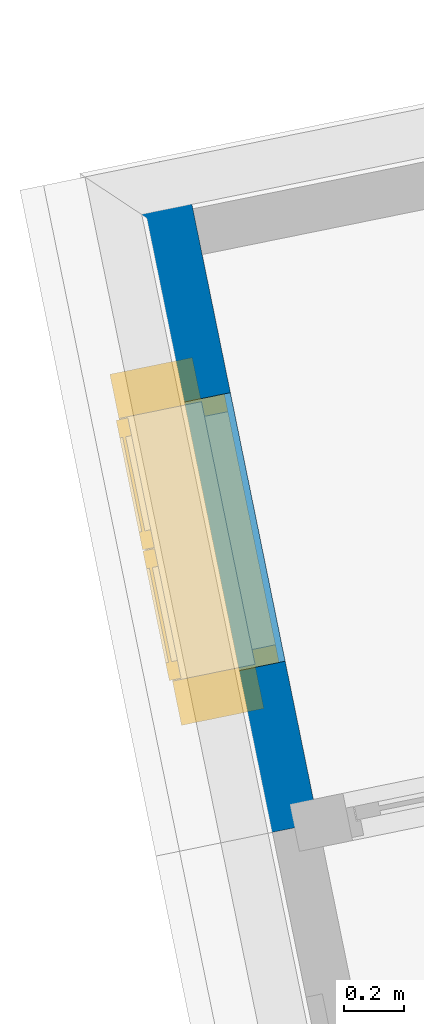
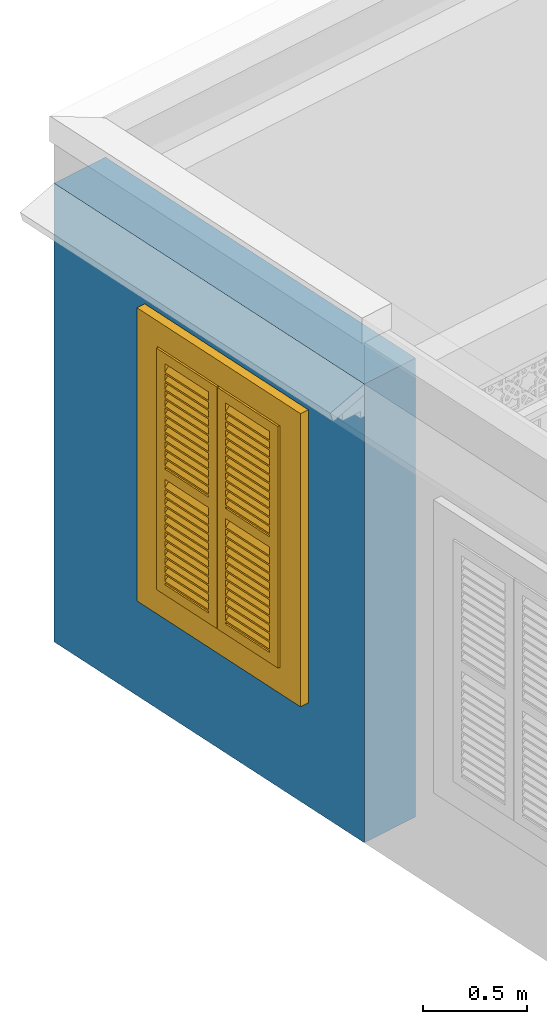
# One storey, part 2 of 5: 1 wall, 1 window, 1 opening.
"""IFC4 building model written with IfcOpenShell, lengths in metres."""

import ifcopenshell
import ifcopenshell.guid

model = None  # the IFC model being written
_history = None  # IfcOwnerHistory: only IFC2X3 demands one
_inside = {}  # id of a spatial element -> (the spatial element, [elements in it])
_under = {}  # id of a project, library or spatial element -> (it, [spatial elements below it])
_declared = {}  # id of a project -> (the project, [libraries it declares])
_typed = {}  # id of a type object -> (the type object, [elements of that type])
_made_of = {}  # id of a material, layer set ... -> (it, [elements and type objects made of it])


def new_model(schema):
    """Start an empty IFC model of exactly this schema.

    Asked for "IFC4X3", IfcOpenShell would pick the latest addendum, in which some entities
    have other attributes; the version numbers below select the first issue.
    IFC2X3 requires an IfcOwnerHistory on every rooted entity: one is made here for all.
    """
    global model, _history
    if schema == "IFC4X3":
        model = ifcopenshell.file(schema_version=(4, 3, 0, 0))
    else:
        model = ifcopenshell.file(schema=schema)
    _inside.clear()
    _under.clear()
    _declared.clear()
    _typed.clear()
    _made_of.clear()
    _history = None
    if model.schema == "IFC2X3":
        org = make("IfcOrganization", Name="unknown")
        user = make(
            "IfcPersonAndOrganization",
            ThePerson=make("IfcPerson", FamilyName="unknown"),
            TheOrganization=org,
        )
        app = make(
            "IfcApplication",
            ApplicationDeveloper=org,
            Version="unknown",
            ApplicationFullName="unknown",
            ApplicationIdentifier="unknown",
        )
        _history = make(
            "IfcOwnerHistory",
            OwningUser=user,
            OwningApplication=app,
            ChangeAction="ADDED",
            CreationDate=0,
        )
    return model


def make(cls, **values):
    """One entity of the class cls with the attributes given. An attribute that is None is left unset."""
    return model.create_entity(
        cls, **{name: value for name, value in values.items() if value is not None}
    )


def rooted(cls, **values):
    """An entity with a GlobalId (a new one), such as an element, a storey or a relation."""
    return make(cls, GlobalId=ifcopenshell.guid.new(), OwnerHistory=_history, **values)


def si_unit(unit_type, name, prefix=None):
    """IfcSIUnit, for example si_unit("LENGTHUNIT", "METRE", prefix="MILLI")."""
    return make("IfcSIUnit", UnitType=unit_type, Prefix=prefix, Name=name)


def assignment(units):
    """IfcUnitAssignment: the units of a project."""
    return None if units is None else make("IfcUnitAssignment", Units=units)


def point(xyz):
    """IfcCartesianPoint."""
    return None if xyz is None else make("IfcCartesianPoint", Coordinates=xyz)


def direction(xyz):
    """IfcDirection."""
    return None if xyz is None else make("IfcDirection", DirectionRatios=xyz)


def frame(location, z_axis=None, x_axis=None):
    """IfcAxis2Placement3D, a coordinate frame: its origin and axes. An axis left out is left unset."""
    return make(
        "IfcAxis2Placement3D",
        Location=point(location),
        Axis=direction(z_axis),
        RefDirection=direction(x_axis),
    )


def origin():
    """The frame at (0, 0, 0) with its axes left unset."""
    return frame((0.0, 0.0, 0.0))


def origin_with_axes():
    """The frame at (0, 0, 0) with the z axis (0, 0, 1) and the x axis (1, 0, 0) written out."""
    return frame((0.0, 0.0, 0.0), z_axis=(0.0, 0.0, 1.0), x_axis=(1.0, 0.0, 0.0))


def place(relative_to, where):
    """IfcLocalPlacement: puts the frame where relative to a parent placement (None: the world)."""
    return make(
        "IfcLocalPlacement", PlacementRelTo=relative_to, RelativePlacement=where
    )


def context(
    kind, dimensions, precision=None, world=None, true_north=None, identifier=None
):
    """IfcGeometricRepresentationContext, for example the 3D "Model" context."""
    return make(
        "IfcGeometricRepresentationContext",
        ContextIdentifier=identifier,
        ContextType=kind,
        CoordinateSpaceDimension=dimensions,
        Precision=precision,
        WorldCoordinateSystem=world,
        TrueNorth=true_north,
    )


def subcontext(parent, identifier, kind, view, scale=None):
    """IfcGeometricRepresentationSubContext, for example "Body" below "Model"."""
    return make(
        "IfcGeometricRepresentationSubContext",
        ContextIdentifier=identifier,
        ContextType=kind,
        ParentContext=parent,
        TargetScale=scale,
        TargetView=view,
    )


def project(units=None, contexts=None):
    """IfcProject with its units and contexts."""
    return rooted(
        "IfcProject",
        Name="project",
        RepresentationContexts=contexts,
        UnitsInContext=assignment(units),
    )


def spatial(cls, under=None, at=None, **own):
    """A site, building, storey or space (cls), placed at a placement, below another one or the project."""
    s = rooted(cls, ObjectPlacement=at, **own)
    if under is not None:
        _under.setdefault(under.id(), (under, []))[1].append(s)
    return s


def polyline(points):
    """IfcPolyline through the points."""
    return make("IfcPolyline", Points=[point(p) for p in points])


def outline(outer, holes=None, kind="AREA"):
    """IfcArbitraryClosedProfileDef: a profile drawn as a closed curve; with holes, ...WithVoids."""
    if holes is None:
        return make("IfcArbitraryClosedProfileDef", ProfileType=kind, OuterCurve=outer)
    return make(
        "IfcArbitraryProfileDefWithVoids",
        ProfileType=kind,
        OuterCurve=outer,
        InnerCurves=holes,
    )


def extrude(swept, where, along, depth):
    """IfcExtrudedAreaSolid: the profile swept, set in the frame where, extruded along a direction by depth."""
    return make(
        "IfcExtrudedAreaSolid",
        SweptArea=swept,
        Position=where,
        ExtrudedDirection=direction(along),
        Depth=depth,
    )


def faces_of(points, faces, orient=None, outer=None):
    """IfcFace entities. A face is a list of loops; a loop is a list of indices into points, from 0.

    orient and outer hold one flag for each loop. By default every Orientation is true, the
    first loop of a face is its IfcFaceOuterBound and the others are IfcFaceBound.
    """
    made = []
    for i, loops in enumerate(faces):
        bounds = []
        for j, loop in enumerate(loops):
            is_outer = j == 0 if outer is None else outer[i][j]
            bounds.append(
                make(
                    "IfcFaceOuterBound" if is_outer else "IfcFaceBound",
                    Bound=make("IfcPolyLoop", Polygon=[points[k] for k in loop]),
                    Orientation=True if orient is None else orient[i][j],
                )
            )
        made.append(make("IfcFace", Bounds=bounds))
    return made


def faceted_brep(points, faces, orient=None, outer=None, voids=None):
    """IfcFacetedBrep: a solid bounded by flat faces; with voids (closed shells), ...WithVoids."""
    shared = [point(p) for p in points]
    hull = make("IfcClosedShell", CfsFaces=faces_of(shared, faces, orient, outer))
    if voids is None:
        return make("IfcFacetedBrep", Outer=hull)
    return make(
        "IfcFacetedBrepWithVoids",
        Outer=hull,
        Voids=[
            make(cls, CfsFaces=faces_of(shared, fs, o, b)) for cls, fs, o, b in voids
        ],
    )


def shape(context_of_items, identifier, shape_type, items):
    """IfcShapeRepresentation: the items that make up one representation, for example the "Body"."""
    return make(
        "IfcShapeRepresentation",
        ContextOfItems=context_of_items,
        RepresentationIdentifier=identifier,
        RepresentationType=shape_type,
        Items=items,
    )


def source(mapping_origin, context_of_items, identifier, shape_type, items):
    """IfcRepresentationMap: a shape defined once, which mapped items show again and again."""
    return make(
        "IfcRepresentationMap",
        MappingOrigin=mapping_origin,
        MappedRepresentation=shape(context_of_items, identifier, shape_type, items),
    )


def transform(
    local_origin,
    x_axis=None,
    y_axis=None,
    z_axis=None,
    scale=None,
    scale2=None,
    scale3=None,
    uniform=True,
):
    """IfcCartesianTransformationOperator3D, or its non-uniform kind. x_axis, y_axis, z_axis: its Axis1, 2, 3."""
    if uniform:
        return make(
            "IfcCartesianTransformationOperator3D",
            Axis1=direction(x_axis),
            Axis2=direction(y_axis),
            LocalOrigin=point(local_origin),
            Scale=scale,
            Axis3=direction(z_axis),
        )
    return make(
        "IfcCartesianTransformationOperator3DnonUniform",
        Axis1=direction(x_axis),
        Axis2=direction(y_axis),
        LocalOrigin=point(local_origin),
        Scale=scale,
        Axis3=direction(z_axis),
        Scale2=scale2,
        Scale3=scale3,
    )


def mapped(mapping_source, mapping_target):
    """IfcMappedItem: shows the shape of a source again, moved by a transform."""
    return make(
        "IfcMappedItem", MappingSource=mapping_source, MappingTarget=mapping_target
    )


def material(Name=None, Category=None):
    """IfcMaterial."""
    return make("IfcMaterial", Name=Name, Category=Category)


def layer(
    of_material, thickness, ventilated=None, Name=None, Category=None, Priority=None
):
    """IfcMaterialLayer: one layer of a wall or slab, of a material (None: an air gap)."""
    return make(
        "IfcMaterialLayer",
        Material=of_material,
        LayerThickness=thickness,
        IsVentilated=ventilated,
        Name=Name,
        Category=Category,
        Priority=Priority,
    )


def layer_set(layers, Name=None):
    """IfcMaterialLayerSet."""
    return make("IfcMaterialLayerSet", MaterialLayers=layers, LayerSetName=Name)


def layer_usage(for_layer_set, set_direction, sense, offset, extent=None):
    """IfcMaterialLayerSetUsage: how a layer set lies in its element."""
    return make(
        "IfcMaterialLayerSetUsage",
        ForLayerSet=for_layer_set,
        LayerSetDirection=set_direction,
        DirectionSense=sense,
        OffsetFromReferenceLine=offset,
        ReferenceExtent=extent,
    )


def made_of(thing, what):
    """Note that an element or type object is made of a material, layer set ...; save() writes the relation."""
    if what is not None:
        _made_of.setdefault(what.id(), (what, []))[1].append(thing)
    return thing


def type_object(cls, material=None, **own):
    """A type object (cls), such as IfcWallType, which elements share."""
    return made_of(rooted(cls, **own), material)


def type_shapes(of_type, sources):
    """Give a type object the sources (RepresentationMaps) that its elements show as mapped items."""
    of_type.RepresentationMaps = sources


def element(
    cls,
    number,
    at=None,
    inside=None,
    cuts=None,
    type_object=None,
    material=None,
    context=None,
    identifier="Body",
    shape_type=None,
    held_by="IfcProductDefinitionShape",
    body=None,
    shapes=None,
    **own,
):
    """One element of the class cls, such as IfcWall. Its Tag is "e" and its number.

    at: its placement. inside: the storey or other place that contains it. cuts: it is an
    opening in that element (IfcRelVoidsElement). A single representation is given by context,
    identifier, shape_type and body (its items); several are given by shapes. held_by: the class
    of the entity that holds the representations. save() writes the other relations.
    """
    e = rooted(cls, Tag="e%d" % number, ObjectPlacement=at, **own)
    if body is not None:
        shapes = [shape(context, identifier, shape_type, body)]
    if shapes is not None:
        e.Representation = make(held_by, Representations=shapes)
    if inside is not None:
        _inside.setdefault(inside.id(), (inside, []))[1].append(e)
    if cuts is not None:
        rooted(
            "IfcRelVoidsElement", RelatingBuildingElement=cuts, RelatedOpeningElement=e
        )
    if type_object is not None:
        _typed.setdefault(type_object.id(), (type_object, []))[1].append(e)
    return made_of(e, material)


def fill(opening, filler):
    """IfcRelFillsElement: the door or window that sits in an opening."""
    return rooted(
        "IfcRelFillsElement",
        RelatingOpeningElement=opening,
        RelatedBuildingElement=filler,
    )


def aggregate(whole, parts):
    """IfcRelAggregates: a whole, such as a stair, and the parts it consists of."""
    return rooted("IfcRelAggregates", RelatingObject=whole, RelatedObjects=parts)


def save(model, path):
    """Write the relations noted so far, then the file.

    IfcRelAggregates (storeys below a building ...), IfcRelContainedInSpatialStructure (elements
    in a storey), IfcRelDefinesByType, IfcRelAssociatesMaterial and IfcRelDeclares: one each for
    every whole, place, type object, material and project.
    """
    for whole, parts in _under.values():
        aggregate(whole, parts)
    for where, things in _inside.values():
        rooted(
            "IfcRelContainedInSpatialStructure",
            RelatedElements=things,
            RelatingStructure=where,
        )
    for kind, things in _typed.values():
        rooted("IfcRelDefinesByType", RelatedObjects=things, RelatingType=kind)
    for what, things in _made_of.values():
        rooted("IfcRelAssociatesMaterial", RelatedObjects=things, RelatingMaterial=what)
    for by, libraries in _declared.values():
        rooted("IfcRelDeclares", RelatingContext=by, RelatedDefinitions=libraries)
    model.write(path)


model = new_model("IFC4")

# Units and contexts
model_context = context("Model", 3, world=origin_with_axes())
body_context = subcontext(model_context, "Body", "Model", "MODEL_VIEW")
ifc_project = project(units=[si_unit("PLANEANGLEUNIT", "RADIAN"), si_unit("MASSUNIT", "GRAM", prefix="KILO"), si_unit("FORCEUNIT", "NEWTON", prefix="KILO"), si_unit("LENGTHUNIT", "METRE"), si_unit("AREAUNIT", "SQUARE_METRE"), si_unit("VOLUMEUNIT", "CUBIC_METRE")], contexts=[model_context, model_context])

# Site, building, storey
site_placement = place(None, origin_with_axes())
site = spatial("IfcSite", under=ifc_project, at=site_placement, Name="Site plot-7", CompositionType="ELEMENT")
building_placement = place(None, origin_with_axes())
building = spatial("IfcBuilding", under=site, at=building_placement, Name="Building plot-7", CompositionType="ELEMENT")
storey_placement = place(None, frame((0.0, 0.0, 5.7), z_axis=(0.0, 0.0, 1.0), x_axis=(1.0, 0.0, 0.0)))
storey = spatial("IfcBuildingStorey", under=building, at=storey_placement, Name="plot-7 2", CompositionType="ELEMENT", Elevation=5.7)

# Wall, opening, window
ifc_material = material(Name="Masonry")
ifc_layer = layer(ifc_material, 0.33, ventilated=False)
ifc_layer_set = layer_set([ifc_layer], Name="exterior_0.08_0.25")
ifc_layer_usage = layer_usage(ifc_layer_set, "AXIS2", "POSITIVE", -0.25)
wall_type = type_object("IfcWallType", Name="exterior_0.08_0.25", PredefinedType="SOLIDWALL", material=ifc_layer_set)
wall_placement = place(storey_placement, frame((-12.3516088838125, 10.9736854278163, 0.0), z_axis=(0.0, 0.0, 1.0), x_axis=(0.199943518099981, -0.979807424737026, 0.0)))
wall = element("IfcWall", 1, at=wall_placement, inside=storey, type_object=wall_type, material=ifc_layer_usage, Name="exterior", context=body_context, shape_type="SweptSolid", body=[
    extrude(outline(polyline([(-0.249999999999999, 0.0800000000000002), (-0.25, -0.249999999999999), (2.00604607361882, -0.25), (2.00604607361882, 0.0799999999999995), (-0.249999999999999, 0.0800000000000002)])), origin_with_axes(), (0.0, 0.0, 1.0), 2.7),
])
opening_placement = place(wall_placement, frame((0.54802303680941, 0.0, 0.75)))
opening = element("IfcOpeningElement", 2, at=opening_placement, cuts=wall, Name="My Opening", ObjectType="Opening", context=body_context, shape_type="SweptSolid", body=[
    extrude(outline(polyline([(0.0, -0.27), (0.910000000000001, -0.269999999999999), (0.91, 1.1), (-3.33066907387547e-16, 1.1), (0.0, -0.27)])), origin_with_axes(), (0.0, 0.0, 1.0), 1.445),
])
window_type = type_object("IfcWindowType", Name="shuttered_shorter", PartitioningType="DOUBLE_PANEL_HORIZONTAL", PredefinedType="NOTDEFINED")
shared_shape = source(origin(), body_context, "Body", "Brep", [
    faceted_brep([(0.393, 0.0, 0.622), (0.074, 0.0, 0.622), (0.074, 0.0, 0.632), (0.393, 0.0, 0.632), (0.074, -0.04, 0.592), (0.393, -0.04, 0.592), (0.393, -0.04, 0.582), (0.074, -0.04, 0.582), (0.517, 0.0, 0.682), (0.836, 0.0, 0.682), (0.836, 0.0, 0.672), (0.517, 0.0, 0.672), (0.517, -0.04, 0.642), (0.836, -0.04, 0.642), (0.836, -0.04, 0.632), (0.517, -0.04, 0.632), (0.517, 0.0, 0.632), (0.836, 0.0, 0.632), (0.836, 0.0, 0.622), (0.517, 0.0, 0.622), (0.517, -0.04, 0.592), (0.836, -0.04, 0.592), (0.836, -0.04, 0.582), (0.517, -0.04, 0.582), (0.517, 0.0, 0.232), (0.836, 0.0, 0.232), (0.836, 0.0, 0.222), (0.517, 0.0, 0.222), (0.517, -0.04, 0.192), (0.836, -0.04, 0.192), (0.836, -0.04, 0.182), (0.517, -0.04, 0.182), (0.517, 0.0, 0.532), (0.836, 0.0, 0.532), (0.836, 0.0, 0.522), (0.517, 0.0, 0.522), (0.517, -0.04, 0.492), (0.836, -0.04, 0.492), (0.836, -0.04, 0.482), (0.517, -0.04, 0.482), (0.517, 0.0, 0.482), (0.836, 0.0, 0.482), (0.836, 0.0, 0.472), (0.517, 0.0, 0.472), (0.517, -0.04, 0.442), (0.836, -0.04, 0.442), (0.836, -0.04, 0.432), (0.517, -0.04, 0.432), (0.517, 0.0, 0.582), (0.836, 0.0, 0.582), (0.836, 0.0, 0.572), (0.517, 0.0, 0.572), (0.517, -0.04, 0.542), (0.836, -0.04, 0.542), (0.836, -0.04, 0.532), (0.517, -0.04, 0.532), (0.517, 0.0, 0.182), (0.836, 0.0, 0.182), (0.836, 0.0, 0.172), (0.517, 0.0, 0.172), (0.517, -0.04, 0.142), (0.836, -0.04, 0.142), (0.836, -0.04, 0.132), (0.517, -0.04, 0.132), (0.517, 0.0, 0.382), (0.836, 0.0, 0.382), (0.836, 0.0, 0.372), (0.517, 0.0, 0.372), (0.517, -0.04, 0.342), (0.836, -0.04, 0.342), (0.836, -0.04, 0.332), (0.517, -0.04, 0.332), (0.517, 0.0, 0.432), (0.836, 0.0, 0.432), (0.836, 0.0, 0.422), (0.517, 0.0, 0.422), (0.517, -0.04, 0.392), (0.836, -0.04, 0.392), (0.836, -0.04, 0.382), (0.517, -0.04, 0.382), (0.517, 0.0, 0.132), (0.836, 0.0, 0.132), (0.836, 0.0, 0.122), (0.517, 0.0, 0.122), (0.517, -0.04, 0.092), (0.836, -0.04, 0.092), (0.836, -0.04, 0.082), (0.517, -0.04, 0.082), (0.517, 0.0, 0.282), (0.836, 0.0, 0.282), (0.836, 0.0, 0.272), (0.517, 0.0, 0.272), (0.517, -0.04, 0.242), (0.836, -0.04, 0.242), (0.836, -0.04, 0.232), (0.517, -0.04, 0.232), (0.517, 0.0, 0.332), (0.836, 0.0, 0.332), (0.836, 0.0, 0.322), (0.517, 0.0, 0.322), (0.517, -0.04, 0.292), (0.836, -0.04, 0.292), (0.836, -0.04, 0.282), (0.517, -0.04, 0.282), (0.517, 0.0, 1.362667), (0.836, 0.0, 1.362667), (0.836, 0.0, 1.352667), (0.517, 0.0, 1.352667), (0.517, -0.04, 1.322667), (0.836, -0.04, 1.322667), (0.836, -0.04, 1.312667), (0.517, -0.04, 1.312667), (0.517, 0.0, 1.312667), (0.836, 0.0, 1.312667), (0.836, 0.0, 1.302667), (0.517, 0.0, 1.302667), (0.517, -0.04, 1.272667), (0.836, -0.04, 1.272667), (0.836, -0.04, 1.262667), (0.517, -0.04, 1.262667), (0.517, 0.0, 0.912667), (0.836, 0.0, 0.912667), (0.836, 0.0, 0.902667), (0.517, 0.0, 0.902667), (0.517, -0.04, 0.872667), (0.836, -0.04, 0.872667), (0.836, -0.04, 0.862667), (0.517, -0.04, 0.862667), (0.517, 0.0, 1.212667), (0.836, 0.0, 1.212667), (0.836, 0.0, 1.202667), (0.517, 0.0, 1.202667), (0.517, -0.04, 1.172667), (0.836, -0.04, 1.172667), (0.836, -0.04, 1.162667), (0.517, -0.04, 1.162667), (0.517, 0.0, 1.162667), (0.836, 0.0, 1.162667), (0.836, 0.0, 1.152667), (0.517, 0.0, 1.152667), (0.517, -0.04, 1.122667), (0.836, -0.04, 1.122667), (0.836, -0.04, 1.112667), (0.517, -0.04, 1.112667), (0.517, 0.0, 1.262667), (0.836, 0.0, 1.262667), (0.836, 0.0, 1.252667), (0.517, 0.0, 1.252667), (0.517, -0.04, 1.222667), (0.836, -0.04, 1.222667), (0.836, -0.04, 1.212667), (0.517, -0.04, 1.212667), (0.517, 0.0, 0.862667), (0.836, 0.0, 0.862667), (0.836, 0.0, 0.852667), (0.517, 0.0, 0.852667), (0.517, -0.04, 0.822667), (0.836, -0.04, 0.822667), (0.836, -0.04, 0.812667), (0.517, -0.04, 0.812667), (0.517, 0.0, 1.062667), (0.836, 0.0, 1.062667), (0.836, 0.0, 1.052667), (0.517, 0.0, 1.052667), (0.517, -0.04, 1.022667), (0.836, -0.04, 1.022667), (0.836, -0.04, 1.012667), (0.517, -0.04, 1.012667), (0.517, 0.0, 1.112667), (0.836, 0.0, 1.112667), (0.836, 0.0, 1.102667), (0.517, 0.0, 1.102667), (0.517, -0.04, 1.072667), (0.836, -0.04, 1.072667), (0.836, -0.04, 1.062667), (0.517, -0.04, 1.062667), (0.517, 0.0, 0.812667), (0.836, 0.0, 0.812667), (0.836, 0.0, 0.802667), (0.517, 0.0, 0.802667), (0.517, -0.04, 0.772667), (0.836, -0.04, 0.772667), (0.836, -0.04, 0.762667), (0.517, -0.04, 0.762667), (0.517, 0.0, 0.962667), (0.836, 0.0, 0.962667), (0.836, 0.0, 0.952667), (0.517, 0.0, 0.952667), (0.517, -0.04, 0.922667), (0.836, -0.04, 0.922667), (0.836, -0.04, 0.912667), (0.517, -0.04, 0.912667), (0.517, 0.0, 1.012667), (0.836, 0.0, 1.012667), (0.836, 0.0, 1.002667), (0.517, 0.0, 1.002667), (0.517, -0.04, 0.972667), (0.836, -0.04, 0.972667), (0.836, -0.04, 0.962667), (0.517, -0.04, 0.962667), (0.074, 0.0, 0.682), (0.393, 0.0, 0.682), (0.393, 0.0, 0.672), (0.074, 0.0, 0.672), (0.074, -0.04, 0.642), (0.393, -0.04, 0.642), (0.393, -0.04, 0.632), (0.074, -0.04, 0.632), (0.074, 0.0, 0.232), (0.393, 0.0, 0.232), (0.393, 0.0, 0.222), (0.074, 0.0, 0.222), (0.074, -0.04, 0.192), (0.393, -0.04, 0.192), (0.393, -0.04, 0.182), (0.074, -0.04, 0.182), (0.074, 0.0, 0.532), (0.393, 0.0, 0.532), (0.393, 0.0, 0.522), (0.074, 0.0, 0.522), (0.074, -0.04, 0.492), (0.393, -0.04, 0.492), (0.393, -0.04, 0.482), (0.074, -0.04, 0.482), (0.074, 0.0, 0.482), (0.393, 0.0, 0.482), (0.393, 0.0, 0.472), (0.074, 0.0, 0.472), (0.074, -0.04, 0.442), (0.393, -0.04, 0.442), (0.393, -0.04, 0.432), (0.074, -0.04, 0.432), (0.074, 0.0, 0.582), (0.393, 0.0, 0.582), (0.393, 0.0, 0.572), (0.074, 0.0, 0.572), (0.074, -0.04, 0.542), (0.393, -0.04, 0.542), (0.393, -0.04, 0.532), (0.074, -0.04, 0.532), (0.074, 0.0, 0.182), (0.393, 0.0, 0.182), (0.393, 0.0, 0.172), (0.074, 0.0, 0.172), (0.074, -0.04, 0.142), (0.393, -0.04, 0.142), (0.393, -0.04, 0.132), (0.074, -0.04, 0.132), (0.074, 0.0, 0.382), (0.393, 0.0, 0.382), (0.393, 0.0, 0.372), (0.074, 0.0, 0.372), (0.074, -0.04, 0.342), (0.393, -0.04, 0.342), (0.393, -0.04, 0.332), (0.074, -0.04, 0.332), (0.074, 0.0, 0.432), (0.393, 0.0, 0.432), (0.393, 0.0, 0.422), (0.074, 0.0, 0.422), (0.074, -0.04, 0.392), (0.393, -0.04, 0.392), (0.393, -0.04, 0.382), (0.074, -0.04, 0.382), (0.074, 0.0, 0.132), (0.393, 0.0, 0.132), (0.393, 0.0, 0.122), (0.074, 0.0, 0.122), (0.074, -0.04, 0.092), (0.393, -0.04, 0.092), (0.393, -0.04, 0.082), (0.074, -0.04, 0.082), (0.074, 0.0, 0.282), (0.393, 0.0, 0.282), (0.393, 0.0, 0.272), (0.074, 0.0, 0.272), (0.074, -0.04, 0.242), (0.393, -0.04, 0.242), (0.393, -0.04, 0.232), (0.074, -0.04, 0.232), (0.074, 0.0, 0.332), (0.393, 0.0, 0.332), (0.393, 0.0, 0.322), (0.074, 0.0, 0.322), (0.074, -0.04, 0.292), (0.393, -0.04, 0.292), (0.393, -0.04, 0.282), (0.074, -0.04, 0.282), (0.074, 0.0, 1.362667), (0.393, 0.0, 1.362667), (0.393, 0.0, 1.352667), (0.074, 0.0, 1.352667), (0.074, -0.04, 1.322667), (0.393, -0.04, 1.322667), (0.393, -0.04, 1.312667), (0.074, -0.04, 1.312667), (0.074, 0.0, 1.312667), (0.393, 0.0, 1.312667), (0.393, 0.0, 1.302667), (0.074, 0.0, 1.302667), (0.074, -0.04, 1.272667), (0.393, -0.04, 1.272667), (0.393, -0.04, 1.262667), (0.074, -0.04, 1.262667), (0.074, 0.0, 0.912667), (0.393, 0.0, 0.912667), (0.393, 0.0, 0.902667), (0.074, 0.0, 0.902667), (0.074, -0.04, 0.872667), (0.393, -0.04, 0.872667), (0.393, -0.04, 0.862667), (0.074, -0.04, 0.862667), (0.074, 0.0, 1.212667), (0.393, 0.0, 1.212667), (0.393, 0.0, 1.202667), (0.074, 0.0, 1.202667), (0.074, -0.04, 1.172667), (0.393, -0.04, 1.172667), (0.393, -0.04, 1.162667), (0.074, -0.04, 1.162667), (0.074, 0.0, 1.162667), (0.393, 0.0, 1.162667), (0.393, 0.0, 1.152667), (0.074, 0.0, 1.152667), (0.074, -0.04, 1.122667), (0.393, -0.04, 1.122667), (0.393, -0.04, 1.112667), (0.074, -0.04, 1.112667), (0.074, 0.0, 1.262667), (0.393, 0.0, 1.262667), (0.393, 0.0, 1.252667), (0.074, 0.0, 1.252667), (0.074, -0.04, 1.222667), (0.393, -0.04, 1.222667), (0.393, -0.04, 1.212667), (0.074, -0.04, 1.212667), (0.074, 0.0, 0.862667), (0.393, 0.0, 0.862667), (0.393, 0.0, 0.852667), (0.074, 0.0, 0.852667), (0.074, -0.04, 0.822667), (0.393, -0.04, 0.822667), (0.393, -0.04, 0.812667), (0.074, -0.04, 0.812667), (0.074, 0.0, 1.062667), (0.393, 0.0, 1.062667), (0.393, 0.0, 1.052667), (0.074, 0.0, 1.052667), (0.074, -0.04, 1.022667), (0.393, -0.04, 1.022667), (0.393, -0.04, 1.012667), (0.074, -0.04, 1.012667), (0.074, 0.0, 1.112667), (0.393, 0.0, 1.112667), (0.393, 0.0, 1.102667), (0.074, 0.0, 1.102667), (0.074, -0.04, 1.072667), (0.393, -0.04, 1.072667), (0.393, -0.04, 1.062667), (0.074, -0.04, 1.062667), (0.074, 0.0, 0.812667), (0.393, 0.0, 0.812667), (0.393, 0.0, 0.802667), (0.074, 0.0, 0.802667), (0.074, -0.04, 0.772667), (0.393, -0.04, 0.772667), (0.393, -0.04, 0.762667), (0.074, -0.04, 0.762667), (0.074, 0.0, 0.962667), (0.393, 0.0, 0.962667), (0.393, 0.0, 0.952667), (0.074, 0.0, 0.952667), (0.074, -0.04, 0.922667), (0.393, -0.04, 0.922667), (0.393, -0.04, 0.912667), (0.074, -0.04, 0.912667), (0.074, 0.0, 1.012667), (0.393, 0.0, 1.012667), (0.393, 0.0, 1.002667), (0.074, 0.0, 1.002667), (0.074, -0.04, 0.972667), (0.393, -0.04, 0.972667), (0.393, -0.04, 0.962667), (0.074, -0.04, 0.962667), (0.517, -0.04, 0.072), (0.457, -0.04, 0.012), (0.896, -0.04, 0.012), (0.836, -0.04, 0.072), (0.457, -0.04, 0.692667), (0.517, -0.04, 0.692667), (0.457, 0.0, 0.012), (0.896, 0.0, 0.012), (0.836, -0.04, 0.692667), (0.896, -0.04, 0.692667), (0.836, 0.0, 0.072), (0.517, 0.0, 0.072), (0.457, 0.0, 0.692667), (0.517, 0.0, 0.692667), (0.517, -0.04, 0.752666), (0.457, -0.04, 0.752666), (0.896, 0.0, 0.692667), (0.836, 0.0, 0.692667), (0.836, -0.04, 0.752666), (0.896, -0.04, 0.752666), (0.457, 0.0, 0.752666), (0.457, -0.04, 1.433333), (0.517, -0.04, 1.373333), (0.896, 0.0, 0.752666), (0.836, -0.04, 1.373333), (0.896, -0.04, 1.433333), (0.457, 0.0, 1.433333), (0.517, 0.0, 0.752666), (0.836, 0.0, 0.752666), (0.517, 0.0, 1.373333), (0.896, 0.0, 1.433333), (0.836, 0.0, 1.373333), (0.074, -0.04, 0.072), (0.014, -0.04, 0.012), (0.453, -0.04, 0.012), (0.393, -0.04, 0.072), (0.014, -0.04, 0.692667), (0.074, -0.04, 0.692667), (0.014, 0.0, 0.012), (0.453, 0.0, 0.012), (0.393, -0.04, 0.692667), (0.453, -0.04, 0.692667), (0.393, 0.0, 0.072), (0.074, 0.0, 0.072), (0.014, 0.0, 0.692667), (0.074, 0.0, 0.692667), (0.074, -0.04, 0.752666), (0.014, -0.04, 0.752666), (0.453, 0.0, 0.692667), (0.393, 0.0, 0.692667), (0.393, -0.04, 0.752666), (0.453, -0.04, 0.752666), (0.014, 0.0, 0.752666), (0.014, -0.04, 1.433333), (0.074, -0.04, 1.373333), (0.453, 0.0, 0.752666), (0.393, -0.04, 1.373333), (0.453, -0.04, 1.433333), (0.014, 0.0, 1.433333), (0.074, 0.0, 0.752666), (0.393, 0.0, 0.752666), (0.074, 0.0, 1.373333), (0.453, 0.0, 1.433333), (0.393, 0.0, 1.373333), (0.0, 0.33, 1.445), (0.91, 0.33, 1.445), (0.85, 0.33, 1.385), (0.06, 0.33, 1.385), (0.91, 0.25, 1.445), (0.0, 0.25, 1.445), (0.91, 0.25, 1.445), (0.85, 0.33, 0.06), (0.91, 0.33, 0.0), (0.85, 0.25, 1.385), (0.06, 0.25, 1.385), (0.0, 0.33, 0.0), (0.06, 0.33, 0.06), (0.0, 0.25, 0.0), (0.91, 0.25, 0.0), (0.85, 0.25, 0.06), (0.06, 0.25, 0.06), (1.05, 0.25, 1.585), (-0.14, 0.25, 1.585), (-0.14, -0.03, 1.585), (1.05, -0.03, 1.585), (0.9, -0.03, 1.435), (0.01, -0.03, 1.435), (0.01, 0.25, 1.435), (0.9, 0.25, 1.435), (0.9, 0.25, 0.01), (0.9, -0.03, 0.01), (1.05, -0.03, -0.14), (1.05, 0.25, -0.14), (0.01, -0.03, 0.01), (0.01, 0.25, 0.01), (-0.14, -0.03, -0.14), (-0.14, 0.25, -0.14)], [[[0, 1, 2, 3]], [[4, 5, 3, 2]], [[5, 6, 0, 3]], [[1, 0, 6, 7]], [[2, 1, 7, 4]], [[5, 4, 7, 6]], [[8, 9, 10, 11]], [[12, 13, 9, 8]], [[13, 14, 10, 9]], [[14, 15, 11, 10]], [[15, 12, 8, 11]], [[13, 12, 15, 14]], [[16, 17, 18, 19]], [[20, 21, 17, 16]], [[21, 22, 18, 17]], [[22, 23, 19, 18]], [[23, 20, 16, 19]], [[21, 20, 23, 22]], [[24, 25, 26, 27]], [[28, 29, 25, 24]], [[29, 30, 26, 25]], [[30, 31, 27, 26]], [[31, 28, 24, 27]], [[29, 28, 31, 30]], [[32, 33, 34, 35]], [[36, 37, 33, 32]], [[37, 38, 34, 33]], [[38, 39, 35, 34]], [[39, 36, 32, 35]], [[37, 36, 39, 38]], [[40, 41, 42, 43]], [[44, 45, 41, 40]], [[45, 46, 42, 41]], [[46, 47, 43, 42]], [[47, 44, 40, 43]], [[45, 44, 47, 46]], [[48, 49, 50, 51]], [[52, 53, 49, 48]], [[53, 54, 50, 49]], [[54, 55, 51, 50]], [[55, 52, 48, 51]], [[53, 52, 55, 54]], [[56, 57, 58, 59]], [[60, 61, 57, 56]], [[61, 62, 58, 57]], [[62, 63, 59, 58]], [[63, 60, 56, 59]], [[61, 60, 63, 62]], [[64, 65, 66, 67]], [[68, 69, 65, 64]], [[69, 70, 66, 65]], [[70, 71, 67, 66]], [[71, 68, 64, 67]], [[69, 68, 71, 70]], [[72, 73, 74, 75]], [[76, 77, 73, 72]], [[77, 78, 74, 73]], [[78, 79, 75, 74]], [[79, 76, 72, 75]], [[77, 76, 79, 78]], [[80, 81, 82, 83]], [[84, 85, 81, 80]], [[85, 86, 82, 81]], [[86, 87, 83, 82]], [[87, 84, 80, 83]], [[85, 84, 87, 86]], [[88, 89, 90, 91]], [[92, 93, 89, 88]], [[93, 94, 90, 89]], [[94, 95, 91, 90]], [[95, 92, 88, 91]], [[93, 92, 95, 94]], [[96, 97, 98, 99]], [[100, 101, 97, 96]], [[101, 102, 98, 97]], [[102, 103, 99, 98]], [[103, 100, 96, 99]], [[101, 100, 103, 102]], [[104, 105, 106, 107]], [[108, 109, 105, 104]], [[109, 110, 106, 105]], [[110, 111, 107, 106]], [[111, 108, 104, 107]], [[109, 108, 111, 110]], [[112, 113, 114, 115]], [[116, 117, 113, 112]], [[117, 118, 114, 113]], [[118, 119, 115, 114]], [[119, 116, 112, 115]], [[117, 116, 119, 118]], [[120, 121, 122, 123]], [[124, 125, 121, 120]], [[125, 126, 122, 121]], [[126, 127, 123, 122]], [[127, 124, 120, 123]], [[125, 124, 127, 126]], [[128, 129, 130, 131]], [[132, 133, 129, 128]], [[133, 134, 130, 129]], [[134, 135, 131, 130]], [[135, 132, 128, 131]], [[133, 132, 135, 134]], [[136, 137, 138, 139]], [[140, 141, 137, 136]], [[141, 142, 138, 137]], [[142, 143, 139, 138]], [[139, 143, 140, 136]], [[141, 140, 143, 142]], [[144, 145, 146, 147]], [[148, 149, 145, 144]], [[149, 150, 146, 145]], [[150, 151, 147, 146]], [[151, 148, 144, 147]], [[149, 148, 151, 150]], [[152, 153, 154, 155]], [[156, 157, 153, 152]], [[157, 158, 154, 153]], [[158, 159, 155, 154]], [[159, 156, 152, 155]], [[157, 156, 159, 158]], [[160, 161, 162, 163]], [[164, 165, 161, 160]], [[165, 166, 162, 161]], [[166, 167, 163, 162]], [[167, 164, 160, 163]], [[165, 164, 167, 166]], [[168, 169, 170, 171]], [[172, 173, 169, 168]], [[173, 174, 170, 169]], [[174, 175, 171, 170]], [[175, 172, 168, 171]], [[173, 172, 175, 174]], [[176, 177, 178, 179]], [[180, 181, 177, 176]], [[181, 182, 178, 177]], [[182, 183, 179, 178]], [[183, 180, 176, 179]], [[181, 180, 183, 182]], [[184, 185, 186, 187]], [[188, 189, 185, 184]], [[189, 190, 186, 185]], [[190, 191, 187, 186]], [[191, 188, 184, 187]], [[189, 188, 191, 190]], [[192, 193, 194, 195]], [[196, 197, 193, 192]], [[197, 198, 194, 193]], [[198, 199, 195, 194]], [[199, 196, 192, 195]], [[197, 196, 199, 198]], [[200, 201, 202, 203]], [[204, 205, 201, 200]], [[205, 206, 202, 201]], [[206, 207, 203, 202]], [[207, 204, 200, 203]], [[205, 204, 207, 206]], [[208, 209, 210, 211]], [[212, 213, 209, 208]], [[213, 214, 210, 209]], [[214, 215, 211, 210]], [[215, 212, 208, 211]], [[213, 212, 215, 214]], [[216, 217, 218, 219]], [[220, 221, 217, 216]], [[221, 222, 218, 217]], [[222, 223, 219, 218]], [[223, 220, 216, 219]], [[221, 220, 223, 222]], [[224, 225, 226, 227]], [[228, 229, 225, 224]], [[229, 230, 226, 225]], [[230, 231, 227, 226]], [[231, 228, 224, 227]], [[229, 228, 231, 230]], [[232, 233, 234, 235]], [[236, 237, 233, 232]], [[237, 238, 234, 233]], [[238, 239, 235, 234]], [[239, 236, 232, 235]], [[237, 236, 239, 238]], [[240, 241, 242, 243]], [[244, 245, 241, 240]], [[245, 246, 242, 241]], [[246, 247, 243, 242]], [[247, 244, 240, 243]], [[245, 244, 247, 246]], [[248, 249, 250, 251]], [[252, 253, 249, 248]], [[253, 254, 250, 249]], [[254, 255, 251, 250]], [[255, 252, 248, 251]], [[253, 252, 255, 254]], [[256, 257, 258, 259]], [[260, 261, 257, 256]], [[261, 262, 258, 257]], [[262, 263, 259, 258]], [[263, 260, 256, 259]], [[261, 260, 263, 262]], [[264, 265, 266, 267]], [[268, 269, 265, 264]], [[269, 270, 266, 265]], [[270, 271, 267, 266]], [[271, 268, 264, 267]], [[269, 268, 271, 270]], [[272, 273, 274, 275]], [[276, 277, 273, 272]], [[277, 278, 274, 273]], [[278, 279, 275, 274]], [[279, 276, 272, 275]], [[277, 276, 279, 278]], [[280, 281, 282, 283]], [[284, 285, 281, 280]], [[285, 286, 282, 281]], [[286, 287, 283, 282]], [[287, 284, 280, 283]], [[285, 284, 287, 286]], [[288, 289, 290, 291]], [[292, 293, 289, 288]], [[293, 294, 290, 289]], [[294, 295, 291, 290]], [[295, 292, 288, 291]], [[293, 292, 295, 294]], [[296, 297, 298, 299]], [[300, 301, 297, 296]], [[301, 302, 298, 297]], [[302, 303, 299, 298]], [[303, 300, 296, 299]], [[301, 300, 303, 302]], [[304, 305, 306, 307]], [[308, 309, 305, 304]], [[309, 310, 306, 305]], [[310, 311, 307, 306]], [[311, 308, 304, 307]], [[309, 308, 311, 310]], [[312, 313, 314, 315]], [[316, 317, 313, 312]], [[317, 318, 314, 313]], [[318, 319, 315, 314]], [[319, 316, 312, 315]], [[317, 316, 319, 318]], [[320, 321, 322, 323]], [[324, 325, 321, 320]], [[325, 326, 322, 321]], [[326, 327, 323, 322]], [[327, 324, 320, 323]], [[325, 324, 327, 326]], [[328, 329, 330, 331]], [[332, 333, 329, 328]], [[333, 334, 330, 329]], [[334, 335, 331, 330]], [[335, 332, 328, 331]], [[333, 332, 335, 334]], [[336, 337, 338, 339]], [[340, 341, 337, 336]], [[341, 342, 338, 337]], [[342, 343, 339, 338]], [[343, 340, 336, 339]], [[341, 340, 343, 342]], [[344, 345, 346, 347]], [[348, 349, 345, 344]], [[349, 350, 346, 345]], [[350, 351, 347, 346]], [[351, 348, 344, 347]], [[349, 348, 351, 350]], [[352, 353, 354, 355]], [[356, 357, 353, 352]], [[357, 358, 354, 353]], [[358, 359, 355, 354]], [[359, 356, 352, 355]], [[357, 356, 359, 358]], [[360, 361, 362, 363]], [[364, 365, 361, 360]], [[365, 366, 362, 361]], [[366, 367, 363, 362]], [[367, 364, 360, 363]], [[365, 364, 367, 366]], [[368, 369, 370, 371]], [[372, 373, 369, 368]], [[373, 374, 370, 369]], [[374, 375, 371, 370]], [[375, 372, 368, 371]], [[373, 372, 375, 374]], [[376, 377, 378, 379]], [[380, 381, 377, 376]], [[381, 382, 378, 377]], [[382, 383, 379, 378]], [[383, 380, 376, 379]], [[381, 380, 383, 382]], [[384, 385, 386, 387]], [[388, 385, 384, 389]], [[390, 391, 386, 385]], [[392, 387, 386, 393]], [[384, 387, 394, 395]], [[390, 385, 388, 396]], [[389, 384, 395, 397]], [[389, 398, 399, 388]], [[390, 395, 394, 391]], [[400, 393, 386, 391]], [[387, 392, 401, 394]], [[402, 392, 393, 403]], [[396, 388, 399, 404]], [[390, 396, 397, 395]], [[392, 389, 397, 401]], [[398, 389, 392, 402]], [[405, 399, 398, 406]], [[394, 401, 400, 391]], [[407, 403, 393, 400]], [[408, 402, 403, 409]], [[404, 399, 405, 410]], [[411, 397, 396, 404]], [[397, 411, 412, 401]], [[398, 402, 412, 411]], [[406, 398, 411, 413]], [[405, 406, 408, 409]], [[401, 412, 407, 400]], [[414, 409, 403, 407]], [[402, 408, 415, 412]], [[405, 409, 414, 410]], [[404, 410, 413, 411]], [[408, 406, 413, 415]], [[412, 415, 414, 407]], [[413, 410, 414, 415]], [[416, 417, 418, 419]], [[420, 417, 416, 421]], [[422, 423, 418, 417]], [[424, 419, 418, 425]], [[416, 419, 426, 427]], [[422, 417, 420, 428]], [[421, 416, 427, 429]], [[421, 430, 431, 420]], [[422, 427, 426, 423]], [[432, 425, 418, 423]], [[419, 424, 433, 426]], [[434, 424, 425, 435]], [[428, 420, 431, 436]], [[422, 428, 429, 427]], [[424, 421, 429, 433]], [[430, 421, 424, 434]], [[437, 431, 430, 438]], [[426, 433, 432, 423]], [[439, 435, 425, 432]], [[440, 434, 435, 441]], [[436, 431, 437, 442]], [[443, 429, 428, 436]], [[429, 443, 444, 433]], [[430, 434, 444, 443]], [[438, 430, 443, 445]], [[437, 438, 440, 441]], [[433, 444, 439, 432]], [[446, 441, 435, 439]], [[434, 440, 447, 444]], [[437, 441, 446, 442]], [[436, 442, 445, 443]], [[440, 438, 445, 447]], [[444, 447, 446, 439]], [[445, 442, 446, 447]], [[448, 449, 450, 451]], [[452, 449, 448]], [[448, 453, 454]], [[448, 454, 452]], [[455, 450, 449, 456]], [[451, 450, 457, 458]], [[459, 448, 451, 460]], [[448, 459, 461, 453]], [[454, 453, 458, 457]], [[462, 452, 454]], [[454, 457, 463]], [[454, 463, 462]], [[456, 449, 452, 462]], [[450, 455, 463, 457]], [[456, 459, 460, 455]], [[460, 451, 458, 464]], [[459, 456, 462, 461]], [[464, 458, 453, 461]], [[461, 462, 463, 464]], [[455, 460, 464, 463]], [[465, 466, 467, 468]], [[469, 470, 471, 472]], [[473, 474, 469, 472]], [[465, 468, 475, 476]], [[470, 477, 478, 471]], [[474, 473, 478, 477]], [[474, 477, 479, 475]], [[470, 467, 479, 477]], [[470, 469, 468, 467]], [[474, 475, 468, 469]], [[471, 478, 480, 466]], [[473, 472, 465, 476]], [[473, 476, 480, 478]], [[466, 465, 472, 471]], [[480, 476, 475, 479]], [[480, 479, 467, 466]]]),
])
type_shapes(window_type, [shared_shape])
window_placement = place(storey_placement, frame((-12.506583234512, 10.3827436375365, 0.75), z_axis=(0.0, 0.0, 1.0), x_axis=(0.181948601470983, -0.891624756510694, 0.0)))
window = element("IfcWindow", 3, at=window_placement, inside=storey, type_object=window_type, Name="circulation outside window", OverallHeight=1.445, OverallWidth=0.91, context=body_context, shape_type="MappedRepresentation", body=[
    mapped(shared_shape, transform((0.0, 0.0, 0.0), scale=1.0)),
])
fill(opening, window)

save(model, "model.ifc")
